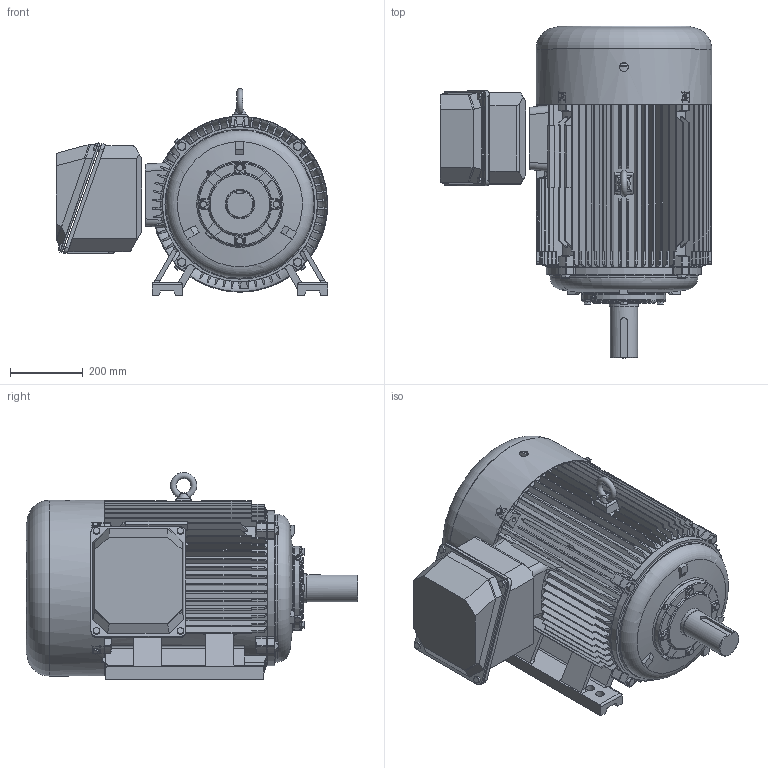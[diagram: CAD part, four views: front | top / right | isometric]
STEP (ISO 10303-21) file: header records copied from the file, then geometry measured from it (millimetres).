
FILE_DESCRIPTION(/* description */ ('Unknown'),/* implementation_level */ '2;1');
FILE_NAME(/* name */ '1-SMA-37906-1_외형도(400DIA)',/* time_stamp */ '2026-07-24T08:24:16+09:00',/* author */ ('Unknown'),/* organization */ ('Unknown'),/* preprocessor_version */ 'ST-DEVELOPER v16',/* originating_system */ 'DEX',/* authorisation */ $);
FILE_SCHEMA (('AUTOMOTIVE_DESIGN {1 0 10303 214 3 1 1}'));
Products named in the file (22): 1-SMA-37906-1_寇屈档(400DI; 2-SMA-36198-1_FRAME(400DIA); 3-1-SMA-36199_擅粽塭鰍(395D; 3-2_SMA-34445_擅漆橫葭醴幗(頂)(3R; 3-3_SMA-34444_菊海绢傅目滚(寇)(3磁凉湮劶(; 4-1-SMA-34446_菴粽塭鰍(395D; 4-2_SMA-34448_第海绢傅目滚(郴)(3磁凉湮劶(; 4-3_SMA-34447_第海绢傅目滚(寇)(3磁凉湮劶(; 6-SMA-34362A_FAN(395DIA); 7-SMA-37914_FAN COVER(395DIA); 8-SMA-37459M_T-BOX(»ó)(400~445DIA)è; 9-SMA-37458M_T-BOX(ж)(400~445DIA); 幫陝獐お M14x2.0x; 幫陝獐お M10x1.5x; À°°¢º¼Æ® M12x1.75xâ; 幫陝Ы楠雖 M8x1.25; ﾀｰｰ｢ｺｼﾆｮ M10x1.5xjｪ; I獐お M20x2.5x30; 斜葬蝶 棲Ы PF 1; 6313ZZ; 6316ZZ; 5-SMA-38270_SHAFT(400DIA)
Assembly tree (41 placements, depth 2):
  1-SMA-37906-1_寇屈档(400DI
    2-SMA-36198-1_FRAME(400DIA)
    3-1-SMA-36199_擅粽塭鰍(395D
    3-2_SMA-34445_擅漆橫葭醴幗(頂)(3R
    3-3_SMA-34444_菊海绢傅目滚(寇)(3磁凉湮劶(
    4-1-SMA-34446_菴粽塭鰍(395D
    4-2_SMA-34448_第海绢傅目滚(郴)(3磁凉湮劶(
    4-3_SMA-34447_第海绢傅目滚(寇)(3磁凉湮劶(
    6-SMA-34362A_FAN(395DIA)
    7-SMA-37914_FAN COVER(395DIA)
    8-SMA-37459M_T-BOX(»ó)(400~445DIA)è
    9-SMA-37458M_T-BOX(ж)(400~445DIA)
    幫陝獐お M14x2.0x  x8
    幫陝獐お M10x1.5x  x8
    À°°¢º¼Æ® M12x1.75xâ
    幫陝Ы楠雖 M8x1.25  x4
    ﾀｰｰ｢ｺｼﾆｮ M10x1.5xjｪ  x4
    I獐お M20x2.5x30
    斜葬蝶 棲Ы PF 1
    6313ZZ
    6316ZZ
    5-SMA-38270_SHAFT(400DIA)
Bounding box: 744.72 x 910 x 566.95 mm (x, y, z)
Volume: 30294955 mm3; surface area: 6446640.9 mm2
Topology: 64 solids, 64 shells, 5459 faces, 15234 edges, 9982 vertices
Faces by surface type: plane 3786, cylinder 747, cone 471, torus 273, bspline 158, sphere 24
Full cylindrical faces by diameter (mm): 4.134 x2, 6.647 x12, 8 x6, 8.376 x12, 10 x27, 10.106 x1, 11.445 x2, 11.835 x8, 12 x30, 13.157 x2, 14 x16, 15 x4, 16 x4, 17.294 x2, 17.5 x4, 20 x2, 24 x7, 56.656 x1, 62 x1, 64.8 x1, 65 x2, 66 x3, 72 x2, 75 x2, 76 x3, 79.8 x1, 80 x3, 81 x3, 82 x2, 85 x1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
Entity records: 214676 total; most frequent: CARTESIAN_POINT 69113, ORIENTED_EDGE 28042, DIRECTION 24175, EDGE_CURVE 14021, LINE 10333, VECTOR 10333, VERTEX_POINT 9386, FACE_BOUND 7105
